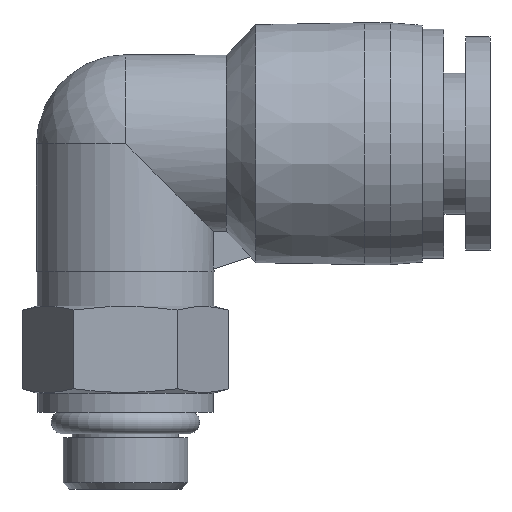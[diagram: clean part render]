
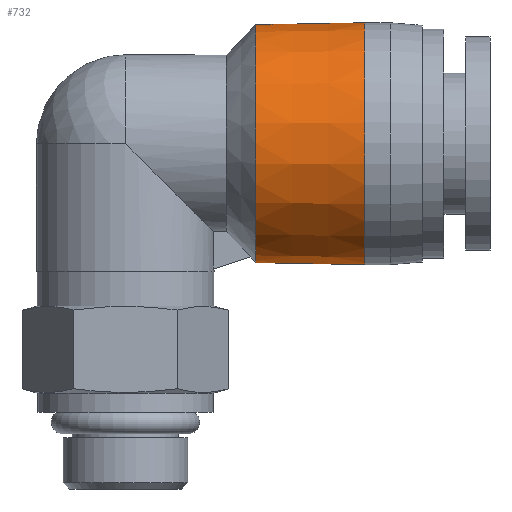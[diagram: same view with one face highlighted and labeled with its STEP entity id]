
A CAD part, top view. The second image highlights one B-rep face of the part: STEP entity #732.
In plain terms, the highlighted conical face has half-angle 1.011 degrees and reference radius 9.375 mm.
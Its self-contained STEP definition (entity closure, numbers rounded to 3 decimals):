
#102=FACE_OUTER_BOUND('',#149,.T.);
#149=EDGE_LOOP('',(#603,#604,#605,#606,#607,#608));
#191=LINE('',#1294,#223);
#223=VECTOR('',#1027,9.375);
#256=CIRCLE('',#810,9.45);
#257=CIRCLE('',#811,9.45);
#272=CIRCLE('',#835,9.3);
#273=CIRCLE('',#836,9.3);
#323=VERTEX_POINT('',#1242);
#324=VERTEX_POINT('',#1244);
#339=VERTEX_POINT('',#1288);
#340=VERTEX_POINT('',#1289);
#413=EDGE_CURVE('',#323,#324,#256,.T.);
#414=EDGE_CURVE('',#324,#323,#257,.T.);
#433=EDGE_CURVE('',#339,#340,#272,.T.);
#434=EDGE_CURVE('',#340,#339,#273,.T.);
#436=EDGE_CURVE('',#323,#340,#191,.T.);
#603=ORIENTED_EDGE('',*,*,#414,.F.);
#604=ORIENTED_EDGE('',*,*,#413,.F.);
#605=ORIENTED_EDGE('',*,*,#436,.T.);
#606=ORIENTED_EDGE('',*,*,#434,.T.);
#607=ORIENTED_EDGE('',*,*,#433,.T.);
#608=ORIENTED_EDGE('',*,*,#436,.F.);
#706=CONICAL_SURFACE('',#837,9.375,0.018);
#732=ADVANCED_FACE('',(#102),#706,.T.);
#810=AXIS2_PLACEMENT_3D('',#1245,#966,#967);
#811=AXIS2_PLACEMENT_3D('',#1246,#968,#969);
#835=AXIS2_PLACEMENT_3D('',#1290,#1020,#1021);
#836=AXIS2_PLACEMENT_3D('',#1291,#1022,#1023);
#837=AXIS2_PLACEMENT_3D('',#1293,#1025,#1026);
#966=DIRECTION('center_axis',(1.,0.,0.));
#967=DIRECTION('ref_axis',(0.,0.,-1.));
#968=DIRECTION('center_axis',(1.,0.,0.));
#969=DIRECTION('ref_axis',(0.,0.,-1.));
#1020=DIRECTION('center_axis',(1.,0.,0.));
#1021=DIRECTION('ref_axis',(0.,0.,-1.));
#1022=DIRECTION('center_axis',(1.,0.,0.));
#1023=DIRECTION('ref_axis',(0.,0.,-1.));
#1025=DIRECTION('center_axis',(1.,0.,0.));
#1026=DIRECTION('ref_axis',(0.,1.,0.));
#1027=DIRECTION('',(-1.,0.018,0.));
#1242=CARTESIAN_POINT('',(18.7,-9.45,0.));
#1244=CARTESIAN_POINT('',(18.7,9.45,0.));
#1245=CARTESIAN_POINT('Origin',(18.7,0.,0.));
#1246=CARTESIAN_POINT('Origin',(18.7,0.,0.));
#1288=CARTESIAN_POINT('',(10.2,9.3,0.));
#1289=CARTESIAN_POINT('',(10.2,-9.3,0.));
#1290=CARTESIAN_POINT('Origin',(10.2,0.,0.));
#1291=CARTESIAN_POINT('Origin',(10.2,0.,0.));
#1293=CARTESIAN_POINT('Origin',(14.45,0.,0.));
#1294=CARTESIAN_POINT('',(14.45,-9.375,0.));
